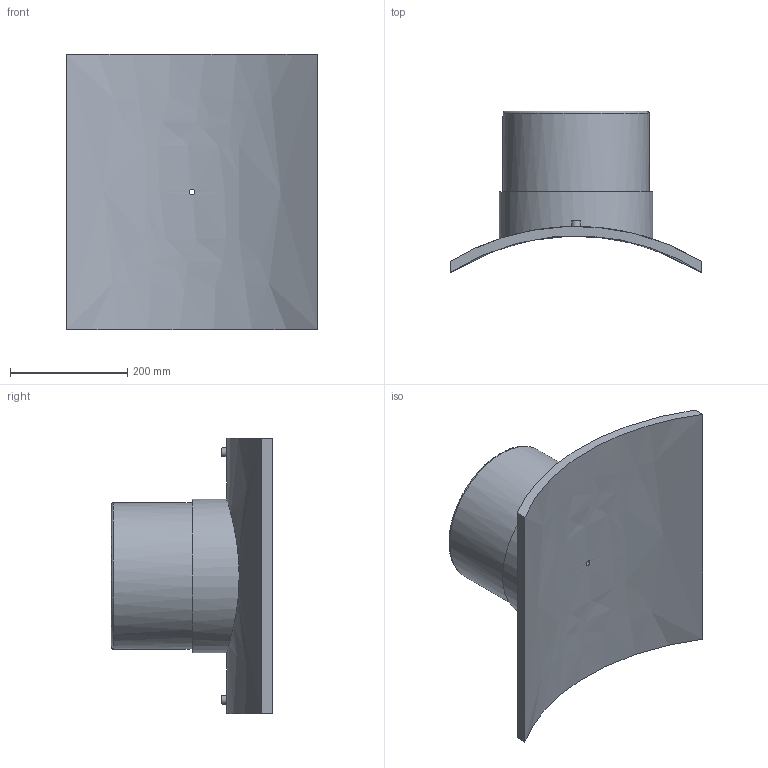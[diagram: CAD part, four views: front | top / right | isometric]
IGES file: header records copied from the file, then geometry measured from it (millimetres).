
Global section: file name: 495803800250T; native system: Autodesk Inventor 2019; preprocessor: unknown; author: KIM; date: 20240404.115729; units: millimetre
Bounding box: 430 x 275.69 x 470 mm (x, y, z)
Volume: 7381239.1 mm3; surface area: 758610.5 mm2
Topology: 1 solids, 1 shells, 29 faces, 60 edges, 43 vertices
Faces by surface type: bspline 29
